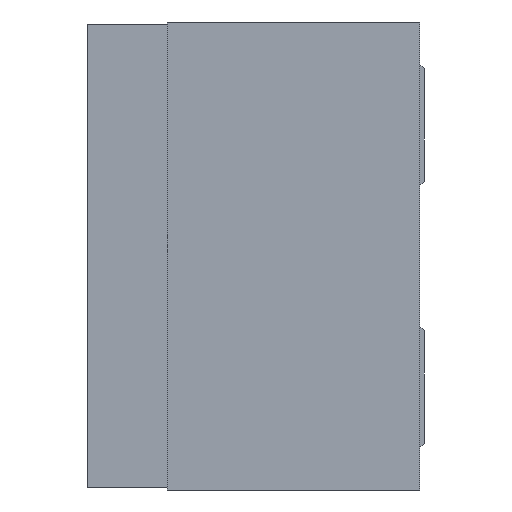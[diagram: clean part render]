
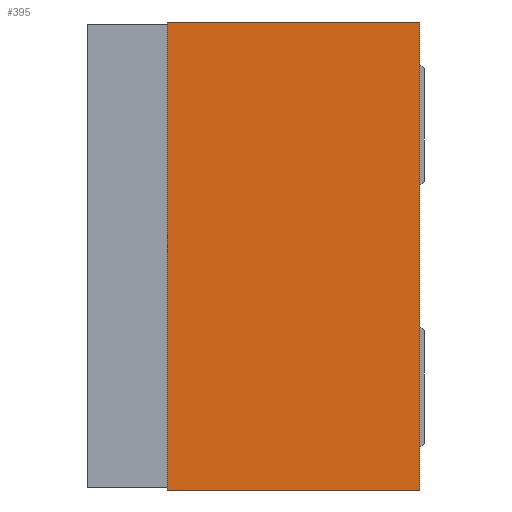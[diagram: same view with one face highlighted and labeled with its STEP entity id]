
A CAD part, left-side view. The second image highlights one B-rep face of the part: STEP entity #395.
In plain terms, the highlighted planar face has unit normal (-1, 0, 0).
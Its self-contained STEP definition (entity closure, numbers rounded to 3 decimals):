
#395 = ADVANCED_FACE( '', ( #1263 ), #1264, .F. );
#1263 = FACE_OUTER_BOUND( '', #2760, .T. );
#1264 = PLANE( '', #2761 );
#2760 = EDGE_LOOP( '', ( #5173, #5174, #5175, #5176 ) );
#2761 = AXIS2_PLACEMENT_3D( '', #5177, #5178, #5179 );
#5173 = ORIENTED_EDGE( '', *, *, #9749, .F. );
#5174 = ORIENTED_EDGE( '', *, *, #9750, .F. );
#5175 = ORIENTED_EDGE( '', *, *, #9751, .F. );
#5176 = ORIENTED_EDGE( '', *, *, #9745, .F. );
#5177 = CARTESIAN_POINT( '', ( -15., 0., 0. ) );
#5178 = DIRECTION( '', ( 1., 0., 0. ) );
#5179 = DIRECTION( '', ( 0., 0., -1. ) );
#9745 = EDGE_CURVE( '', #11801, #11802, #11803, .T. );
#9749 = EDGE_CURVE( '', #11809, #11801, #11810, .T. );
#9750 = EDGE_CURVE( '', #11811, #11809, #11812, .T. );
#9751 = EDGE_CURVE( '', #11802, #11811, #11813, .T. );
#11801 = VERTEX_POINT( '', #14855 );
#11802 = VERTEX_POINT( '', #14856 );
#11803 = LINE( '', #14857, #14858 );
#11809 = VERTEX_POINT( '', #14867 );
#11810 = LINE( '', #14868, #14869 );
#11811 = VERTEX_POINT( '', #14870 );
#11812 = LINE( '', #14871, #14872 );
#11813 = LINE( '', #14873, #14874 );
#14855 = CARTESIAN_POINT( '', ( -15., 23., -50. ) );
#14856 = CARTESIAN_POINT( '', ( -15., 23., 50. ) );
#14857 = CARTESIAN_POINT( '', ( -15., 23., -50. ) );
#14858 = VECTOR( '', #18301, 1. );
#14867 = CARTESIAN_POINT( '', ( -15., -31., -50. ) );
#14868 = CARTESIAN_POINT( '', ( -15., -31., -50. ) );
#14869 = VECTOR( '', #18305, 1. );
#14870 = CARTESIAN_POINT( '', ( -15., -31., 50. ) );
#14871 = CARTESIAN_POINT( '', ( -15., -31., 50. ) );
#14872 = VECTOR( '', #18306, 1. );
#14873 = CARTESIAN_POINT( '', ( -15., 23., 50. ) );
#14874 = VECTOR( '', #18307, 1. );
#18301 = DIRECTION( '', ( 0., 0., 1. ) );
#18305 = DIRECTION( '', ( 0., 1., 0. ) );
#18306 = DIRECTION( '', ( 0., 0., -1. ) );
#18307 = DIRECTION( '', ( 0., -1., 0. ) );
